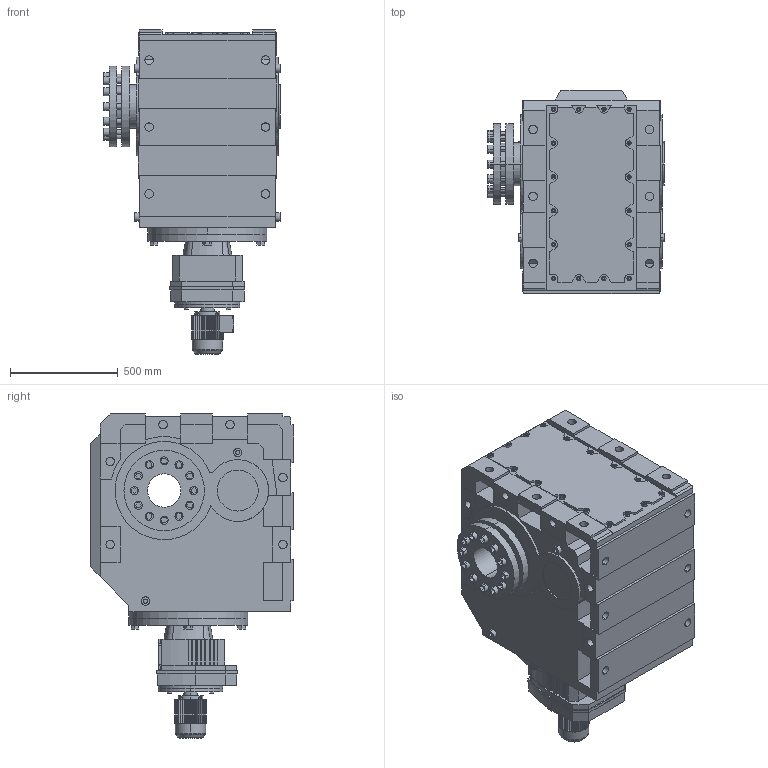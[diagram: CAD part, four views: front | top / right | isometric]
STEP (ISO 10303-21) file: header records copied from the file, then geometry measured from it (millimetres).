
FILE_DESCRIPTION(('Open CASCADE Model'),'2;1');
FILE_NAME('Open CASCADE Shape Model','2021-07-24T16:54:18',('Author'),( 'Open CASCADE'),'Open CASCADE STEP processor 6.3','Open CASCADE 6.3' ,'Unknown');
FILE_SCHEMA(('AUTOMOTIVE_DESIGN_CC2 { 1 2 10303 214 -1 1 5 4 }'));
Length unit declared in the file: millimetre
Products named in the file (5): 1_KH187R97DT80-A; K167‵187_187.step; 萇儂_300-DT80-231-295-145-122.step; R_187_97.step; 梠攫諾陑粣K_187.step
Assembly tree (4 placements, depth 2):
  1_KH187R97DT80-A
    K167‵187_187.step
    萇儂_300-DT80-231-295-145-122.step
    R_187_97.step
    梠攫諾陑粣K_187.step
Bounding box: 816.25 x 942 x 1502 mm (x, y, z)
Volume: 534434895.3 mm3; surface area: 8097849.4 mm2
Topology: 4 solids, 4 shells, 1297 faces, 3374 edges, 2214 vertices
Faces by surface type: plane 896, cylinder 387, cone 10, torus 4
Entity records: 84038 total; most frequent: CARTESIAN_POINT 18864, DIRECTION 11434, ORIENTED_EDGE 6748, PCURVE 6748, DEFINITIONAL_REPRESENTATION 6748, LINE 6444, VECTOR 6444, EDGE_CURVE 3374
